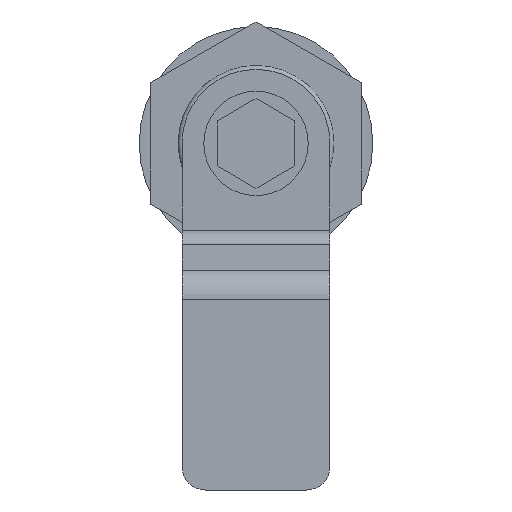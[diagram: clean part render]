
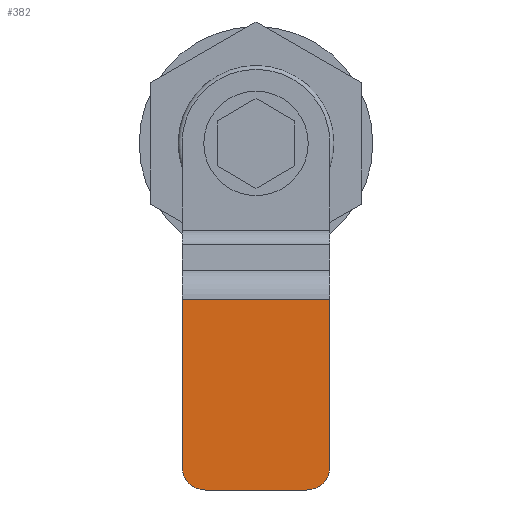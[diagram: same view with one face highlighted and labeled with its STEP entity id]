
A CAD part, front view. The second image highlights one B-rep face of the part: STEP entity #382.
In plain terms, the highlighted planar face has unit normal (0, -1, 0).
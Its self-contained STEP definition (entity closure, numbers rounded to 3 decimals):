
#2 = VERTEX_POINT ( 'NONE', #247 ) ;
#9 = DIRECTION ( 'NONE',  ( 0., -1., 0. ) ) ;
#35 = EDGE_CURVE ( 'NONE', #1245, #1449, #1366, .T. ) ;
#63 = VECTOR ( 'NONE', #1912, 1000. ) ;
#87 = DIRECTION ( 'NONE',  ( 0., -1., 0. ) ) ;
#97 = ORIENTED_EDGE ( 'NONE', *, *, #176, .F. ) ;
#154 = CARTESIAN_POINT ( 'NONE',  ( 6.5, -16., -41.5 ) ) ;
#173 = CARTESIAN_POINT ( 'NONE',  ( -45.277, -16., -44.5 ) ) ;
#176 = EDGE_CURVE ( 'NONE', #1463, #1147, #1034, .T. ) ;
#178 = ORIENTED_EDGE ( 'NONE', *, *, #1786, .T. ) ;
#184 = EDGE_LOOP ( 'NONE', ( #1514, #1383, #350, #1199, #97, #178 ) ) ;
#247 = CARTESIAN_POINT ( 'NONE',  ( 9.5, -16., -20. ) ) ;
#292 = VECTOR ( 'NONE', #332, 1000. ) ;
#332 = DIRECTION ( 'NONE',  ( -1., 0., 0. ) ) ;
#350 = ORIENTED_EDGE ( 'NONE', *, *, #1216, .F. ) ;
#382 = ADVANCED_FACE ( 'NONE', ( #664 ), #1287, .T. ) ;
#391 = CARTESIAN_POINT ( 'NONE',  ( -45.277, -16., -44.5 ) ) ;
#519 = VECTOR ( 'NONE', #1974, 1000. ) ;
#625 = CIRCLE ( 'NONE', #1832, 3. ) ;
#632 = CARTESIAN_POINT ( 'NONE',  ( 9.5, -16., -44.5 ) ) ;
#641 = DIRECTION ( 'NONE',  ( 0., 0., -1. ) ) ;
#664 = FACE_OUTER_BOUND ( 'NONE', #184, .T. ) ;
#728 = CIRCLE ( 'NONE', #792, 3. ) ;
#792 = AXIS2_PLACEMENT_3D ( 'NONE', #1400, #87, #1221 ) ;
#819 = LINE ( 'NONE', #1433, #292 ) ;
#825 = AXIS2_PLACEMENT_3D ( 'NONE', #173, #1761, #1919 ) ;
#839 = CARTESIAN_POINT ( 'NONE',  ( -9.5, -16., -20. ) ) ;
#993 = VECTOR ( 'NONE', #1996, 1000. ) ;
#1034 = LINE ( 'NONE', #1839, #993 ) ;
#1147 = VERTEX_POINT ( 'NONE', #839 ) ;
#1199 = ORIENTED_EDGE ( 'NONE', *, *, #1579, .T. ) ;
#1211 = CARTESIAN_POINT ( 'NONE',  ( 9.5, -16., -41.5 ) ) ;
#1216 = EDGE_CURVE ( 'NONE', #2, #1902, #1626, .T. ) ;
#1221 = DIRECTION ( 'NONE',  ( 0., 0., -1. ) ) ;
#1226 = EDGE_CURVE ( 'NONE', #1449, #1902, #625, .T. ) ;
#1245 = VERTEX_POINT ( 'NONE', #1281 ) ;
#1281 = CARTESIAN_POINT ( 'NONE',  ( -6.5, -16., -44.5 ) ) ;
#1287 = PLANE ( 'NONE',  #825 ) ;
#1366 = LINE ( 'NONE', #391, #519 ) ;
#1383 = ORIENTED_EDGE ( 'NONE', *, *, #1226, .T. ) ;
#1400 = CARTESIAN_POINT ( 'NONE',  ( -6.5, -16., -41.5 ) ) ;
#1433 = CARTESIAN_POINT ( 'NONE',  ( -45.277, -16., -20. ) ) ;
#1449 = VERTEX_POINT ( 'NONE', #1702 ) ;
#1463 = VERTEX_POINT ( 'NONE', #2012 ) ;
#1514 = ORIENTED_EDGE ( 'NONE', *, *, #35, .T. ) ;
#1579 = EDGE_CURVE ( 'NONE', #2, #1147, #819, .T. ) ;
#1626 = LINE ( 'NONE', #632, #63 ) ;
#1702 = CARTESIAN_POINT ( 'NONE',  ( 6.5, -16., -44.5 ) ) ;
#1761 = DIRECTION ( 'NONE',  ( 0., -1., 0. ) ) ;
#1786 = EDGE_CURVE ( 'NONE', #1463, #1245, #728, .T. ) ;
#1832 = AXIS2_PLACEMENT_3D ( 'NONE', #154, #9, #641 ) ;
#1839 = CARTESIAN_POINT ( 'NONE',  ( -9.5, -16., -44.5 ) ) ;
#1902 = VERTEX_POINT ( 'NONE', #1211 ) ;
#1912 = DIRECTION ( 'NONE',  ( 0., 0., -1. ) ) ;
#1919 = DIRECTION ( 'NONE',  ( 0., 0., -1. ) ) ;
#1974 = DIRECTION ( 'NONE',  ( 1., 0., 0. ) ) ;
#1996 = DIRECTION ( 'NONE',  ( 0., 0., 1. ) ) ;
#2012 = CARTESIAN_POINT ( 'NONE',  ( -9.5, -16., -41.5 ) ) ;
